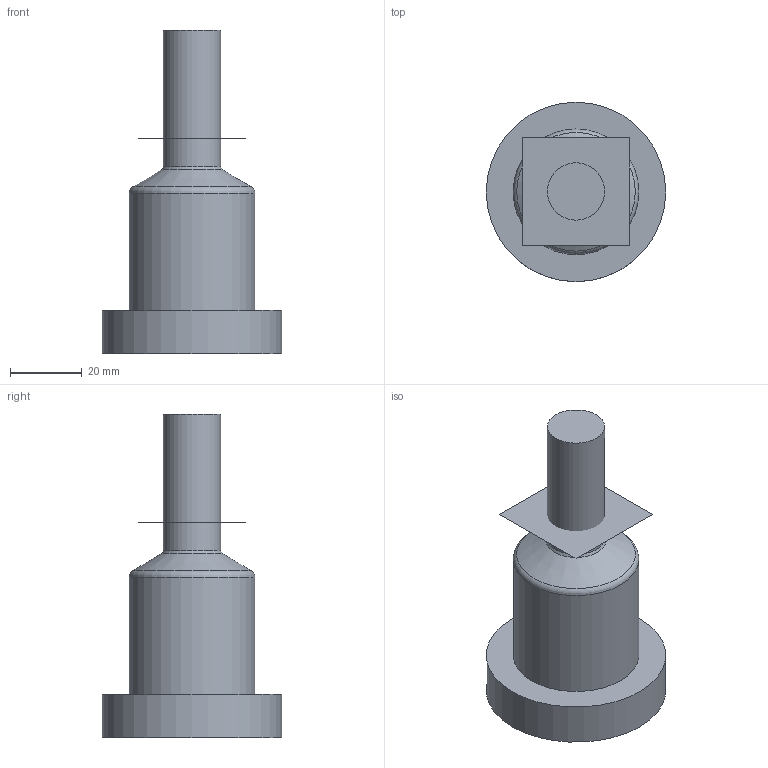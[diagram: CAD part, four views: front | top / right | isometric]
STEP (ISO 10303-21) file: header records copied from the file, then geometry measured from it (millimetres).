
FILE_DESCRIPTION (( 'STEP AP214' ), '1' );
FILE_NAME ('12E-06-060_##P.STEP', '2020-11-17T06:36:35', ( '' ), ( '' ), 'SwSTEP 2.0', 'SolidWorks 2018', '' );
FILE_SCHEMA (( 'AUTOMOTIVE_DESIGN' ));
Length unit declared in the file: millimetre
Products named in the file (3): nozzle_12E-06-060-##P; cutout_12E-06-060-##P; 12E-06-060_##P
Assembly tree (2 placements, depth 2):
  12E-06-060_##P
    nozzle_12E-06-060-##P
    cutout_12E-06-060-##P
Bounding box: 50 x 50 x 90 mm (x, y, z)
Volume: 66879.6 mm3; surface area: 22286.3 mm2
Topology: 1 solids, 12 shells, 178 faces, 477 edges, 311 vertices
Faces by surface type: plane 90, cylinder 66, torus 15, cone 7
Full cylindrical faces by diameter (mm): 2 x2, 6 x2, 15.661 x1, 16 x2, 21 x1, 24 x1, 25 x1, 28 x1, 31 x1, 35 x1, 50 x1
Entity records: 5953 total; most frequent: CARTESIAN_POINT 1465, DIRECTION 942, ORIENTED_EDGE 878, EDGE_CURVE 441, AXIS2_PLACEMENT_3D 350, VERTEX_POINT 299, VECTOR 242, LINE 242
